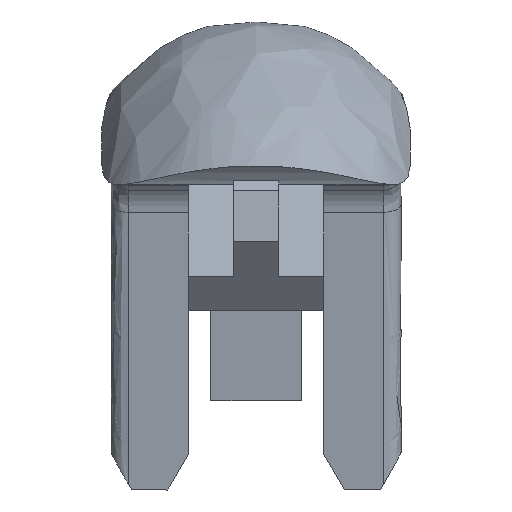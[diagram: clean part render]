
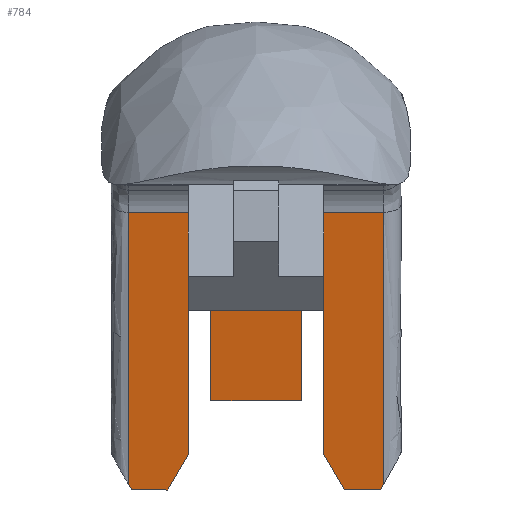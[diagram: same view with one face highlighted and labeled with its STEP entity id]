
A CAD part, top view. The second image highlights one B-rep face of the part: STEP entity #784.
In plain terms, the highlighted planar face has unit normal (0, -0.154, 0.988).
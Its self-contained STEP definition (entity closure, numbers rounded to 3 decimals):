
#42 = VERTEX_POINT ( 'NONE', #159 ) ;
#56 = CARTESIAN_POINT ( 'NONE',  ( 3.914, -10.808, -7.968 ) ) ;
#72 = CARTESIAN_POINT ( 'NONE',  ( 3., -9.244, -7.725 ) ) ;
#98 = CARTESIAN_POINT ( 'NONE',  ( 2., -0.927, -6.432 ) ) ;
#121 = ORIENTED_EDGE ( 'NONE', *, *, #1575, .T. ) ;
#159 = CARTESIAN_POINT ( 'NONE',  ( -5.514, -10.808, -7.968 ) ) ;
#167 = EDGE_CURVE ( 'NONE', #261, #658, #950, .T. ) ;
#209 = CARTESIAN_POINT ( 'NONE',  ( 6.428, -9.244, -7.725 ) ) ;
#210 = VERTEX_POINT ( 'NONE', #2498 ) ;
#219 = DIRECTION ( 'NONE',  ( 0., -0.988, -0.154 ) ) ;
#235 = CARTESIAN_POINT ( 'NONE',  ( 3., -9.244, -7.725 ) ) ;
#243 = ORIENTED_EDGE ( 'NONE', *, *, #804, .T. ) ;
#255 = LINE ( 'NONE', #72, #1306 ) ;
#261 = VERTEX_POINT ( 'NONE', #2101 ) ;
#267 = DIRECTION ( 'NONE',  ( 0.5, -0.856, -0.133 ) ) ;
#278 = EDGE_CURVE ( 'NONE', #42, #779, #2553, .T. ) ;
#286 = DIRECTION ( 'NONE',  ( 0., -0.988, -0.154 ) ) ;
#291 = ORIENTED_EDGE ( 'NONE', *, *, #431, .T. ) ;
#294 = AXIS2_PLACEMENT_3D ( 'NONE', #1481, #2122, #2548 ) ;
#305 = LINE ( 'NONE', #2220, #322 ) ;
#322 = VECTOR ( 'NONE', #497, 1000. ) ;
#431 = EDGE_CURVE ( 'NONE', #261, #2099, #696, .T. ) ;
#461 = ORIENTED_EDGE ( 'NONE', *, *, #167, .F. ) ;
#497 = DIRECTION ( 'NONE',  ( 1., 0., 0. ) ) ;
#511 = VECTOR ( 'NONE', #675, 1000. ) ;
#518 = EDGE_CURVE ( 'NONE', #2099, #1651, #523, .T. ) ;
#523 = LINE ( 'NONE', #2200, #2617 ) ;
#526 = CARTESIAN_POINT ( 'NONE',  ( -3.914, -10.808, -7.968 ) ) ;
#562 = VECTOR ( 'NONE', #1812, 1000. ) ;
#568 = EDGE_CURVE ( 'NONE', #2142, #1871, #1347, .T. ) ;
#579 = DIRECTION ( 'NONE',  ( 1., 0., 0. ) ) ;
#596 = CARTESIAN_POINT ( 'NONE',  ( 3., -0.927, -6.432 ) ) ;
#630 = VECTOR ( 'NONE', #2384, 1000. ) ;
#645 = CARTESIAN_POINT ( 'NONE',  ( 2., -0.927, -6.432 ) ) ;
#652 = VECTOR ( 'NONE', #2255, 1000. ) ;
#658 = VERTEX_POINT ( 'NONE', #1780 ) ;
#675 = DIRECTION ( 'NONE',  ( 0.5, -0.856, -0.133 ) ) ;
#683 = ORIENTED_EDGE ( 'NONE', *, *, #278, .T. ) ;
#696 = LINE ( 'NONE', #2567, #1036 ) ;
#741 = VECTOR ( 'NONE', #2458, 1000. ) ;
#779 = VERTEX_POINT ( 'NONE', #1986 ) ;
#784 = ADVANCED_FACE ( 'NONE', ( #1153 ), #2013, .T. ) ;
#804 = EDGE_CURVE ( 'NONE', #1667, #2142, #1605, .T. ) ;
#878 = CARTESIAN_POINT ( 'NONE',  ( 3., -0.927, -6.432 ) ) ;
#909 = VECTOR ( 'NONE', #219, 1000. ) ;
#919 = LINE ( 'NONE', #878, #630 ) ;
#942 = CARTESIAN_POINT ( 'NONE',  ( 2., -6.856, -7.354 ) ) ;
#950 = LINE ( 'NONE', #2414, #562 ) ;
#1001 = ORIENTED_EDGE ( 'NONE', *, *, #2320, .T. ) ;
#1036 = VECTOR ( 'NONE', #2126, 1000. ) ;
#1064 = CARTESIAN_POINT ( 'NONE',  ( 2., -6.856, -7.354 ) ) ;
#1080 = EDGE_LOOP ( 'NONE', ( #2035, #461, #291, #2312, #2364, #683, #1627, #243, #2615, #2117, #1151, #2564, #2011, #1001, #121, #2177 ) ) ;
#1100 = DIRECTION ( 'NONE',  ( 0., -0.988, -0.154 ) ) ;
#1146 = CARTESIAN_POINT ( 'NONE',  ( -5.646, 1.494, -6.055 ) ) ;
#1150 = DIRECTION ( 'NONE',  ( 0.5, 0.856, 0.133 ) ) ;
#1151 = ORIENTED_EDGE ( 'NONE', *, *, #2189, .T. ) ;
#1153 = FACE_OUTER_BOUND ( 'NONE', #1080, .T. ) ;
#1158 = EDGE_CURVE ( 'NONE', #210, #658, #1966, .T. ) ;
#1306 = VECTOR ( 'NONE', #1100, 1000. ) ;
#1347 = LINE ( 'NONE', #1824, #741 ) ;
#1357 = LINE ( 'NONE', #98, #2342 ) ;
#1407 = VECTOR ( 'NONE', #2324, 1000. ) ;
#1481 = CARTESIAN_POINT ( 'NONE',  ( 5.646, 1.494, -6.055 ) ) ;
#1507 = EDGE_CURVE ( 'NONE', #1651, #42, #2560, .T. ) ;
#1509 = CARTESIAN_POINT ( 'NONE',  ( -6.428, -9.244, -7.725 ) ) ;
#1524 = CARTESIAN_POINT ( 'NONE',  ( -2., -6.856, -7.354 ) ) ;
#1531 = VERTEX_POINT ( 'NONE', #1524 ) ;
#1550 = DIRECTION ( 'NONE',  ( 0., 0.988, 0.154 ) ) ;
#1575 = EDGE_CURVE ( 'NONE', #2170, #2222, #2208, .T. ) ;
#1605 = LINE ( 'NONE', #2281, #652 ) ;
#1623 = VECTOR ( 'NONE', #1932, 1000. ) ;
#1627 = ORIENTED_EDGE ( 'NONE', *, *, #2448, .T. ) ;
#1651 = VERTEX_POINT ( 'NONE', #1975 ) ;
#1659 = EDGE_CURVE ( 'NONE', #2037, #1854, #1357, .T. ) ;
#1667 = VERTEX_POINT ( 'NONE', #2407 ) ;
#1712 = LINE ( 'NONE', #2572, #909 ) ;
#1741 = LINE ( 'NONE', #526, #2287 ) ;
#1780 = CARTESIAN_POINT ( 'NONE',  ( 5.646, -10.583, -7.933 ) ) ;
#1812 = DIRECTION ( 'NONE',  ( 0., -0.988, -0.154 ) ) ;
#1824 = CARTESIAN_POINT ( 'NONE',  ( -3., -0.927, -6.432 ) ) ;
#1852 = VECTOR ( 'NONE', #267, 1000. ) ;
#1854 = VERTEX_POINT ( 'NONE', #645 ) ;
#1871 = VERTEX_POINT ( 'NONE', #2168 ) ;
#1901 = VECTOR ( 'NONE', #579, 1000. ) ;
#1932 = DIRECTION ( 'NONE',  ( 1., 0., 0. ) ) ;
#1966 = LINE ( 'NONE', #209, #1407 ) ;
#1975 = CARTESIAN_POINT ( 'NONE',  ( -5.646, -10.583, -7.933 ) ) ;
#1986 = CARTESIAN_POINT ( 'NONE',  ( -3.914, -10.808, -7.968 ) ) ;
#2011 = ORIENTED_EDGE ( 'NONE', *, *, #2297, .T. ) ;
#2013 = PLANE ( 'NONE',  #294 ) ;
#2035 = ORIENTED_EDGE ( 'NONE', *, *, #1158, .T. ) ;
#2037 = VERTEX_POINT ( 'NONE', #942 ) ;
#2099 = VERTEX_POINT ( 'NONE', #1146 ) ;
#2101 = CARTESIAN_POINT ( 'NONE',  ( 5.646, 1.494, -6.055 ) ) ;
#2117 = ORIENTED_EDGE ( 'NONE', *, *, #2149, .T. ) ;
#2122 = DIRECTION ( 'NONE',  ( 0., -0.154, 0.988 ) ) ;
#2126 = DIRECTION ( 'NONE',  ( -1., 0., 0. ) ) ;
#2131 = CARTESIAN_POINT ( 'NONE',  ( -3., -0.927, -6.432 ) ) ;
#2142 = VERTEX_POINT ( 'NONE', #2131 ) ;
#2149 = EDGE_CURVE ( 'NONE', #1871, #1531, #1712, .T. ) ;
#2167 = LINE ( 'NONE', #1064, #1623 ) ;
#2168 = CARTESIAN_POINT ( 'NONE',  ( -2., -0.927, -6.432 ) ) ;
#2170 = VERTEX_POINT ( 'NONE', #235 ) ;
#2177 = ORIENTED_EDGE ( 'NONE', *, *, #2456, .T. ) ;
#2189 = EDGE_CURVE ( 'NONE', #1531, #2037, #2167, .T. ) ;
#2200 = CARTESIAN_POINT ( 'NONE',  ( -5.646, 1.494, -6.055 ) ) ;
#2208 = LINE ( 'NONE', #2225, #1852 ) ;
#2220 = CARTESIAN_POINT ( 'NONE',  ( -8.113, -10.808, -7.968 ) ) ;
#2222 = VERTEX_POINT ( 'NONE', #56 ) ;
#2225 = CARTESIAN_POINT ( 'NONE',  ( 3.914, -10.808, -7.968 ) ) ;
#2255 = DIRECTION ( 'NONE',  ( 0., 0.988, 0.154 ) ) ;
#2281 = CARTESIAN_POINT ( 'NONE',  ( -3., -9.244, -7.725 ) ) ;
#2287 = VECTOR ( 'NONE', #1150, 1000. ) ;
#2297 = EDGE_CURVE ( 'NONE', #1854, #2669, #919, .T. ) ;
#2312 = ORIENTED_EDGE ( 'NONE', *, *, #518, .T. ) ;
#2320 = EDGE_CURVE ( 'NONE', #2669, #2170, #255, .T. ) ;
#2324 = DIRECTION ( 'NONE',  ( 0.5, 0.856, 0.133 ) ) ;
#2342 = VECTOR ( 'NONE', #1550, 1000. ) ;
#2364 = ORIENTED_EDGE ( 'NONE', *, *, #1507, .T. ) ;
#2384 = DIRECTION ( 'NONE',  ( 1., 0., 0. ) ) ;
#2407 = CARTESIAN_POINT ( 'NONE',  ( -3., -9.244, -7.725 ) ) ;
#2414 = CARTESIAN_POINT ( 'NONE',  ( 5.646, 1.494, -6.055 ) ) ;
#2448 = EDGE_CURVE ( 'NONE', #779, #1667, #1741, .T. ) ;
#2456 = EDGE_CURVE ( 'NONE', #2222, #210, #305, .T. ) ;
#2458 = DIRECTION ( 'NONE',  ( 1., 0., 0. ) ) ;
#2498 = CARTESIAN_POINT ( 'NONE',  ( 5.514, -10.808, -7.968 ) ) ;
#2548 = DIRECTION ( 'NONE',  ( 0., -0.988, -0.154 ) ) ;
#2553 = LINE ( 'NONE', #2735, #1901 ) ;
#2560 = LINE ( 'NONE', #1509, #511 ) ;
#2564 = ORIENTED_EDGE ( 'NONE', *, *, #1659, .T. ) ;
#2567 = CARTESIAN_POINT ( 'NONE',  ( 5.646, 1.494, -6.055 ) ) ;
#2572 = CARTESIAN_POINT ( 'NONE',  ( -2., -0.927, -6.432 ) ) ;
#2615 = ORIENTED_EDGE ( 'NONE', *, *, #568, .T. ) ;
#2617 = VECTOR ( 'NONE', #286, 1000. ) ;
#2669 = VERTEX_POINT ( 'NONE', #596 ) ;
#2735 = CARTESIAN_POINT ( 'NONE',  ( -8.113, -10.808, -7.968 ) ) ;
